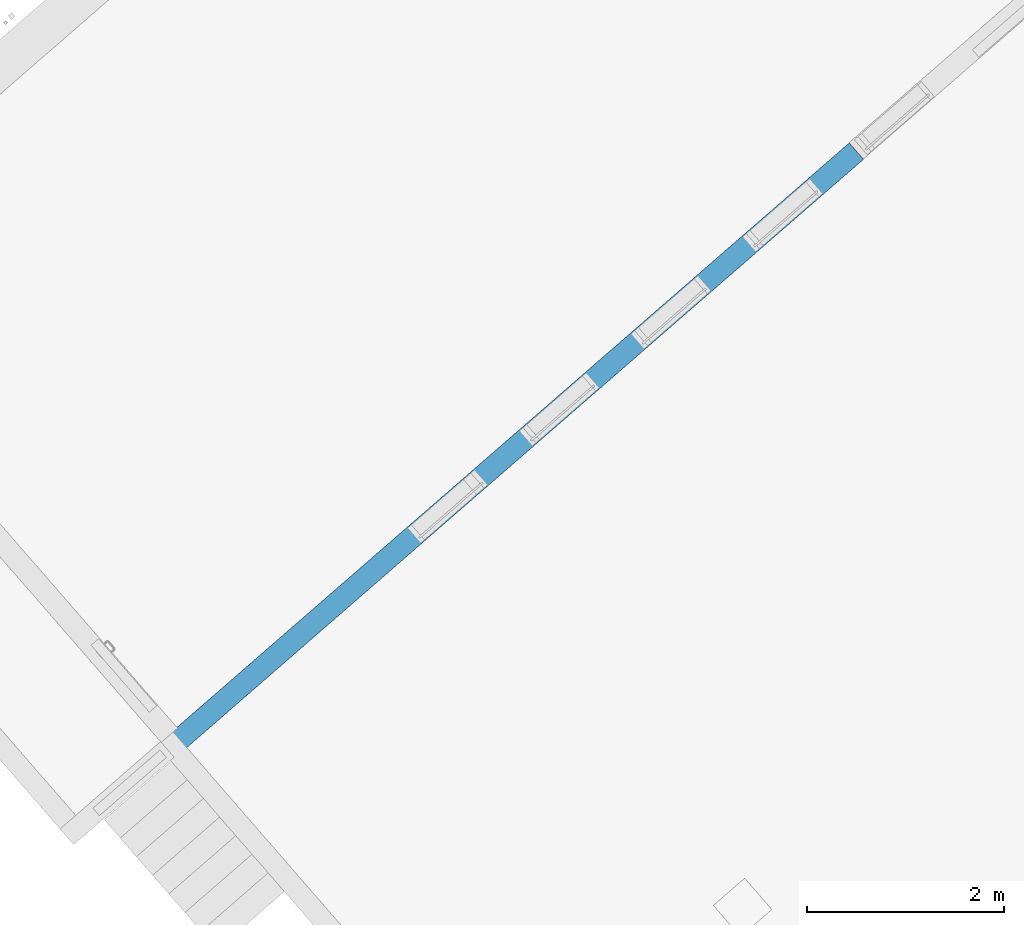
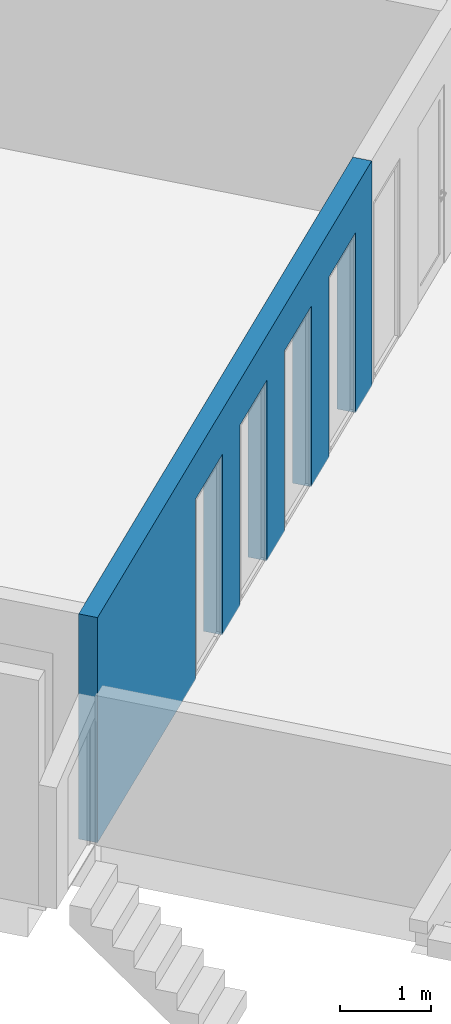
# One storey, part 46 of 124: 1 wall.
"""IFC2X3 building model written with IfcOpenShell, lengths in millimetres."""

from ifc_helpers import new_model, entity, si_unit, converted_unit, derived_unit, money_unit, direction, frame, origin_with_axes, place, context, subcontext, project, spatial, faceted_brep, material, material_list, type_object, element, save


model = new_model("IFC2X3")

# Units and contexts
model_context = context("Model", 3, precision=1e-05, world=origin_with_axes(), true_north=direction((0.0, 1.0)))
body_context = subcontext(model_context, "Body", "Model", "MODEL_VIEW")
ifc_project = project(units=[si_unit("LENGTHUNIT", "METRE", prefix="MILLI"), si_unit("AREAUNIT", "SQUARE_METRE"), si_unit("VOLUMEUNIT", "CUBIC_METRE"), converted_unit("PLANEANGLEUNIT", "DEGREE", entity("IfcPlaneAngleMeasure", 0.0174532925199), si_unit("PLANEANGLEUNIT", "RADIAN"), dimensions=[0, 0, 0, 0, 0, 0, 0]), si_unit("SOLIDANGLEUNIT", "STERADIAN"), money_unit("EUR"), converted_unit("TIMEUNIT", "Year", entity("IfcTimeMeasure", 31556926.0), si_unit("TIMEUNIT", "SECOND"), dimensions=[0, 0, 1, 0, 0, 0, 0]), si_unit("MASSUNIT", "GRAM", prefix="KILO"), si_unit("THERMODYNAMICTEMPERATUREUNIT", "DEGREE_CELSIUS"), si_unit("LUMINOUSINTENSITYUNIT", "LUMEN"), si_unit("ENERGYUNIT", "JOULE", prefix="MEGA"), derived_unit("THERMALCONDUCTANCEUNIT", [(si_unit("POWERUNIT", "WATT"), 1), (si_unit("LENGTHUNIT", "METRE"), -1), (si_unit("THERMODYNAMICTEMPERATUREUNIT", "KELVIN"), -1)]), derived_unit("SPECIFICHEATCAPACITYUNIT", [(si_unit("ENERGYUNIT", "JOULE"), 1), (si_unit("MASSUNIT", "GRAM", prefix="KILO"), -1), (si_unit("THERMODYNAMICTEMPERATUREUNIT", "KELVIN"), -1)]), derived_unit("MASSDENSITYUNIT", [(si_unit("MASSUNIT", "GRAM", prefix="KILO"), 1), (si_unit("VOLUMEUNIT", "CUBIC_METRE"), -1)])], contexts=[model_context])

# Site, building, storey
site_placement = place(None, origin_with_axes())
site = spatial("IfcSite", under=ifc_project, at=site_placement, Name="Site", CompositionType="ELEMENT")
building_placement = place(site_placement, origin_with_axes())
building = spatial("IfcBuilding", under=site, at=building_placement, Name="Building", CompositionType="ELEMENT")
storey_placement = place(building_placement, frame((0.0, 0.0, -1615.0), z_axis=(0.0, 0.0, 1.0), x_axis=(1.0, 0.0, 0.0)))
storey = spatial("IfcBuildingStorey", under=building, at=storey_placement, Name="0  korrus", CompositionType="ELEMENT", Elevation=-1615.0)

# Wall
ifc_material_1 = material(Name="Krohv - Lubjakivi")
ifc_material_2 = material(Name="Raudbetoon - Konstruktsioon")
ifc_material_list = material_list([ifc_material_1, ifc_material_2, ifc_material_1])
wall_type = type_object("IfcWallType", Name="SS-10", PredefinedType="NOTDEFINED")
wall_placement = place(storey_placement, frame((142615.382208, 85050.3382908, -20.0), z_axis=(0.0, 0.0, 1.0), x_axis=(0.754709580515, 0.656059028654, 0.0)))
element("IfcWall", 1, at=wall_placement, inside=storey, type_object=wall_type, material=ifc_material_list, Name="SS-10", context=body_context, shape_type="Brep", body=[
    faceted_brep([(3309.99986822, 210.0, 20.0), (3309.99986822, 210.0, 2420.0), (4209.99986822, 210.0, 2420.0), (4209.99986822, 210.0, 20.0), (4209.99986822, 210.0, 0.0), (4809.99986822, 210.0, 0.0), (4809.99986822, 210.0, 20.0), (4809.99986822, 210.0, 2420.0), (5709.99986822, 210.0, 2420.0), (5709.99986822, 210.0, 20.0), (5709.99986822, 210.0, 0.0), (6309.99986822, 210.0, 0.0), (6309.99986822, 210.0, 20.0), (6309.99986822, 210.0, 2420.0), (7209.99986822, 210.0, 2420.0), (7209.99986822, 210.0, 20.0), (7209.99986822, 210.0, 0.0), (7809.99986822, 210.0, 0.0), (7809.99986822, 210.0, 20.0), (7809.99986822, 210.0, 2420.0), (8709.99986822, 210.0, 2420.0), (8709.99986822, 210.0, 20.0), (8709.99986822, 210.0, 0.0), (9250.0, 210.0, 0.0), (9250.0, 210.0, 3020.0), (0.0, 210.0, 3020.0), (0.0, 210.0, 0.0), (3309.99986822, 210.0, 0.0), (3309.99986822, 220.0, 20.0), (3309.99986822, 220.0, 2420.0), (4209.99986822, 220.0, 2420.0), (4209.99986822, 220.0, 20.0), (4209.99986822, 220.0, 0.0), (4809.99986822, 220.0, 0.0), (4809.99986822, 220.0, 20.0), (4809.99986822, 220.0, 2420.0), (5709.99986822, 220.0, 2420.0), (5709.99986822, 220.0, 20.0), (5709.99986822, 220.0, 0.0), (6309.99986822, 220.0, 0.0), (6309.99986822, 220.0, 20.0), (6309.99986822, 220.0, 2420.0), (7209.99986822, 220.0, 2420.0), (7209.99986822, 220.0, 20.0), (7209.99986822, 220.0, 0.0), (7809.99986822, 220.0, 0.0), (7809.99986822, 220.0, 20.0), (7809.99986822, 220.0, 2420.0), (8709.99986822, 220.0, 2420.0), (8709.99986822, 220.0, 20.0), (8709.99986822, 220.0, 0.0), (9250.0, 220.0, 0.0), (9250.0, 220.0, 3020.0), (0.0, 220.0, 3020.0), (0.0, 220.0, 0.0), (3309.99986822, 220.0, 0.0)], [[[0, 1, 2, 3, 4, 5, 6, 7, 8, 9, 10, 11, 12, 13, 14, 15, 16, 17, 18, 19, 20, 21, 22, 23, 24, 25, 26, 27]], [[1, 0, 28, 29]], [[2, 1, 29, 30]], [[3, 2, 30, 31]], [[3, 31, 32, 4]], [[33, 5, 4, 32]], [[6, 5, 33, 34]], [[6, 34, 35, 7]], [[7, 35, 36, 8]], [[8, 36, 37, 9]], [[37, 38, 10, 9]], [[39, 11, 10, 38]], [[11, 39, 40, 12]], [[40, 41, 13, 12]], [[41, 42, 14, 13]], [[42, 43, 15, 14]], [[44, 16, 15, 43]], [[45, 17, 16, 44]], [[45, 46, 18, 17]], [[47, 19, 18, 46]], [[48, 20, 19, 47]], [[49, 21, 20, 48]], [[22, 21, 49, 50]], [[22, 50, 51, 23]], [[23, 51, 52, 24]], [[25, 24, 52, 53]], [[53, 54, 26, 25]], [[55, 27, 26, 54]], [[28, 0, 27, 55]], [[29, 28, 55, 54, 53, 52, 51, 50, 49, 48, 47, 46, 45, 44, 43, 42, 41, 40, 39, 38, 37, 36, 35, 34, 33, 32, 31, 30]]]),
    faceted_brep([(3309.99986822, 10.0, 20.0), (3309.99986822, 10.0, 2420.0), (4209.99986822, 9.99999999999, 2420.0), (4209.99986822, 9.99999999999, 20.0), (4209.99986822, 10.0, 0.0), (4809.99986822, 10.0, 0.0), (4809.99986822, 10.0, 20.0), (4809.99986822, 9.99999999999, 2420.0), (5709.99986822, 9.99999999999, 2420.0), (5709.99986822, 9.99999999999, 20.0), (5709.99986822, 9.99999999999, 0.0), (6309.99986822, 10.0, 0.0), (6309.99986822, 9.99999999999, 20.0), (6309.99986822, 10.0, 2420.0), (7209.99986822, 10.0, 2420.0), (7209.99986822, 9.99999999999, 20.0), (7209.99986822, 10.0, 0.0), (7809.99986822, 10.0, 0.0), (7809.99986822, 10.0, 20.0), (7809.99986822, 10.0, 2420.0), (8709.99986822, 10.0, 2420.0), (8709.99986822, 10.0, 20.0), (8709.99986822, 10.0, 0.0), (9250.0, 10.0, 0.0), (9250.0, 10.0, 3020.0), (0.0, 10.0, 3020.0), (0.0, 10.0, 0.0), (3309.99986822, 9.99999999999, 0.0), (3309.99986822, 210.0, 20.0), (3309.99986822, 210.0, 2420.0), (4209.99986822, 210.0, 2420.0), (4209.99986822, 210.0, 20.0), (4209.99986822, 210.0, 0.0), (4809.99986822, 210.0, 0.0), (4809.99986822, 210.0, 20.0), (4809.99986822, 210.0, 2420.0), (5709.99986822, 210.0, 2420.0), (5709.99986822, 210.0, 20.0), (5709.99986822, 210.0, 0.0), (6309.99986822, 210.0, 0.0), (6309.99986822, 210.0, 20.0), (6309.99986822, 210.0, 2420.0), (7209.99986822, 210.0, 2420.0), (7209.99986822, 210.0, 20.0), (7209.99986822, 210.0, 0.0), (7809.99986822, 210.0, 0.0), (7809.99986822, 210.0, 20.0), (7809.99986822, 210.0, 2420.0), (8709.99986822, 210.0, 2420.0), (8709.99986822, 210.0, 20.0), (8709.99986822, 210.0, 0.0), (9250.0, 210.0, 0.0), (9250.0, 210.0, 3020.0), (0.0, 210.0, 3020.0), (0.0, 210.0, 0.0), (3309.99986822, 210.0, 0.0)], [[[0, 1, 2, 3, 4, 5, 6, 7, 8, 9, 10, 11, 12, 13, 14, 15, 16, 17, 18, 19, 20, 21, 22, 23, 24, 25, 26, 27]], [[1, 0, 28, 29]], [[2, 1, 29, 30]], [[3, 2, 30, 31]], [[3, 31, 32, 4]], [[33, 5, 4, 32]], [[6, 5, 33, 34]], [[6, 34, 35, 7]], [[7, 35, 36, 8]], [[8, 36, 37, 9]], [[37, 38, 10, 9]], [[39, 11, 10, 38]], [[11, 39, 40, 12]], [[40, 41, 13, 12]], [[41, 42, 14, 13]], [[42, 43, 15, 14]], [[44, 16, 15, 43]], [[45, 17, 16, 44]], [[45, 46, 18, 17]], [[47, 19, 18, 46]], [[48, 20, 19, 47]], [[49, 21, 20, 48]], [[22, 21, 49, 50]], [[22, 50, 51, 23]], [[23, 51, 52, 24]], [[25, 24, 52, 53]], [[53, 54, 26, 25]], [[55, 27, 26, 54]], [[28, 0, 27, 55]], [[29, 28, 55, 54, 53, 52, 51, 50, 49, 48, 47, 46, 45, 44, 43, 42, 41, 40, 39, 38, 37, 36, 35, 34, 33, 32, 31, 30]]]),
    faceted_brep([(3309.99986822, 0.0, 20.0), (3309.99986822, 0.0, 2420.0), (4209.99986822, 0.0, 2420.0), (4209.99986822, 0.0, 20.0), (4209.99986822, 0.0, 0.0), (4809.99986822, 0.0, 0.0), (4809.99986822, 0.0, 20.0), (4809.99986822, 0.0, 2420.0), (5709.99986822, 0.0, 2420.0), (5709.99986822, 0.0, 20.0), (5709.99986822, 0.0, 0.0), (6309.99986822, 0.0, 0.0), (6309.99986822, 0.0, 20.0), (6309.99986822, 0.0, 2420.0), (7209.99986822, 0.0, 2420.0), (7209.99986822, 0.0, 20.0), (7209.99986822, 0.0, 0.0), (7809.99986822, 0.0, 0.0), (7809.99986822, 0.0, 20.0), (7809.99986822, 0.0, 2420.0), (8709.99986822, 0.0, 2420.0), (8709.99986822, 0.0, 20.0), (8709.99986822, 0.0, 0.0), (9250.0, 0.0, 0.0), (9250.0, 0.0, 3020.0), (0.0, 0.0, 3020.0), (0.0, 0.0, 0.0), (3309.99986822, 0.0, 0.0), (3309.99986822, 10.0, 20.0), (3309.99986822, 10.0, 2420.0), (4209.99986822, 10.0, 2420.0), (4209.99986822, 9.99999999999, 20.0), (4209.99986822, 10.0, 0.0), (4809.99986822, 10.0, 0.0), (4809.99986822, 9.99999999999, 20.0), (4809.99986822, 10.0, 2420.0), (5709.99986822, 10.0, 2420.0), (5709.99986822, 10.0, 20.0), (5709.99986822, 9.99999999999, 0.0), (6309.99986822, 10.0, 0.0), (6309.99986822, 9.99999999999, 20.0), (6309.99986822, 10.0, 2420.0), (7209.99986822, 10.0, 2420.0), (7209.99986822, 9.99999999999, 20.0), (7209.99986822, 10.0, 0.0), (7809.99986822, 10.0, 0.0), (7809.99986822, 10.0, 20.0), (7809.99986822, 10.0, 2420.0), (8709.99986822, 10.0, 2420.0), (8709.99986822, 10.0, 20.0), (8709.99986822, 10.0, 0.0), (9250.0, 10.0, 0.0), (9250.0, 10.0, 3020.0), (0.0, 10.0, 3020.0), (0.0, 10.0, 0.0), (3309.99986822, 9.99999999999, 0.0)], [[[0, 1, 2, 3, 4, 5, 6, 7, 8, 9, 10, 11, 12, 13, 14, 15, 16, 17, 18, 19, 20, 21, 22, 23, 24, 25, 26, 27]], [[1, 0, 28, 29]], [[2, 1, 29, 30]], [[3, 2, 30, 31]], [[3, 31, 32, 4]], [[33, 5, 4, 32]], [[6, 5, 33, 34]], [[6, 34, 35, 7]], [[7, 35, 36, 8]], [[8, 36, 37, 9]], [[37, 38, 10, 9]], [[39, 11, 10, 38]], [[11, 39, 40, 12]], [[40, 41, 13, 12]], [[41, 42, 14, 13]], [[42, 43, 15, 14]], [[44, 16, 15, 43]], [[45, 17, 16, 44]], [[45, 46, 18, 17]], [[47, 19, 18, 46]], [[48, 20, 19, 47]], [[49, 21, 20, 48]], [[22, 21, 49, 50]], [[22, 50, 51, 23]], [[23, 51, 52, 24]], [[25, 24, 52, 53]], [[53, 54, 26, 25]], [[55, 27, 26, 54]], [[28, 0, 27, 55]], [[29, 28, 55, 54, 53, 52, 51, 50, 49, 48, 47, 46, 45, 44, 43, 42, 41, 40, 39, 38, 37, 36, 35, 34, 33, 32, 31, 30]]]),
])

save(model, "model.ifc")
